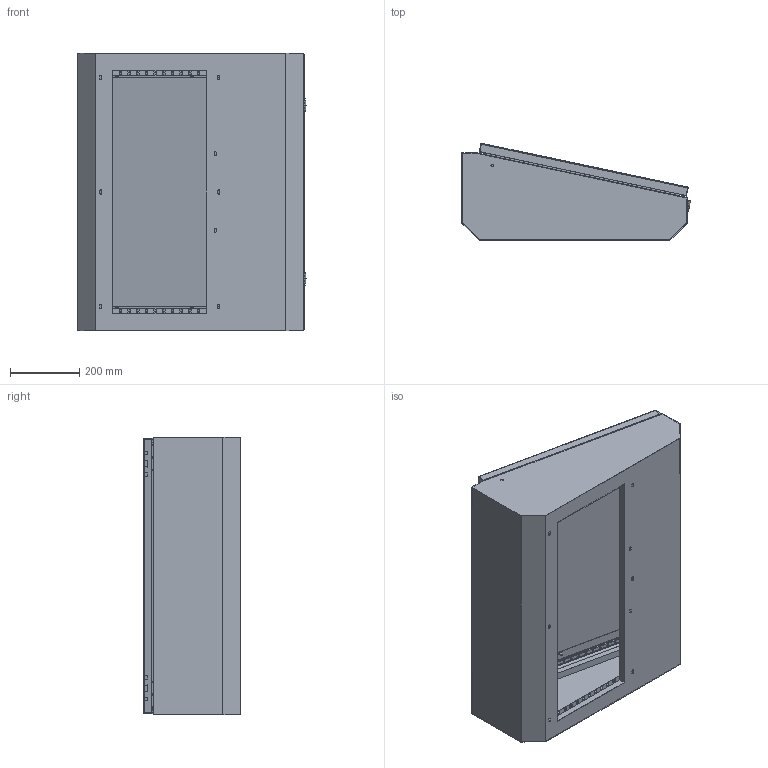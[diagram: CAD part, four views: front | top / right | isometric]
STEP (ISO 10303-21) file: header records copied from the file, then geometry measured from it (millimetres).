
FILE_DESCRIPTION (( 'STEP AP203' ), '1' );
FILE_NAME ('ME802.STEP', '2018-06-29T12:55:29', ( '' ), ( '' ), 'SwSTEP 2.0', 'SolidWorks 2017', '' );
FILE_SCHEMA (( 'CONFIG_CONTROL_DESIGN' ));
Length unit declared in the file: millimetre
Products named in the file (4): AR_ME_involucro_ME802; ME802; AR_ST_chiusura_std_WE250; AR_ME_pannello_ME802
Assembly tree (4 placements, depth 2):
  ME802
    AR_ME_involucro_ME802
    AR_ME_pannello_ME802
    AR_ST_chiusura_std_WE250  x2
Bounding box: 658.5 x 279.93 x 800 mm (x, y, z)
Volume: 2922679.1 mm3; surface area: 3275382.5 mm2
Topology: 10 solids, 10 shells, 614 faces, 1643 edges, 1078 vertices
Faces by surface type: plane 301, cylinder 279, cone 26, torus 4, sphere 4
Entity records: 19538 total; most frequent: DIRECTION 3382, CARTESIAN_POINT 3283, ORIENTED_EDGE 3206, EDGE_CURVE 1603, AXIS2_PLACEMENT_3D 1182, VERTEX_POINT 1051, VECTOR 1018, LINE 1018
